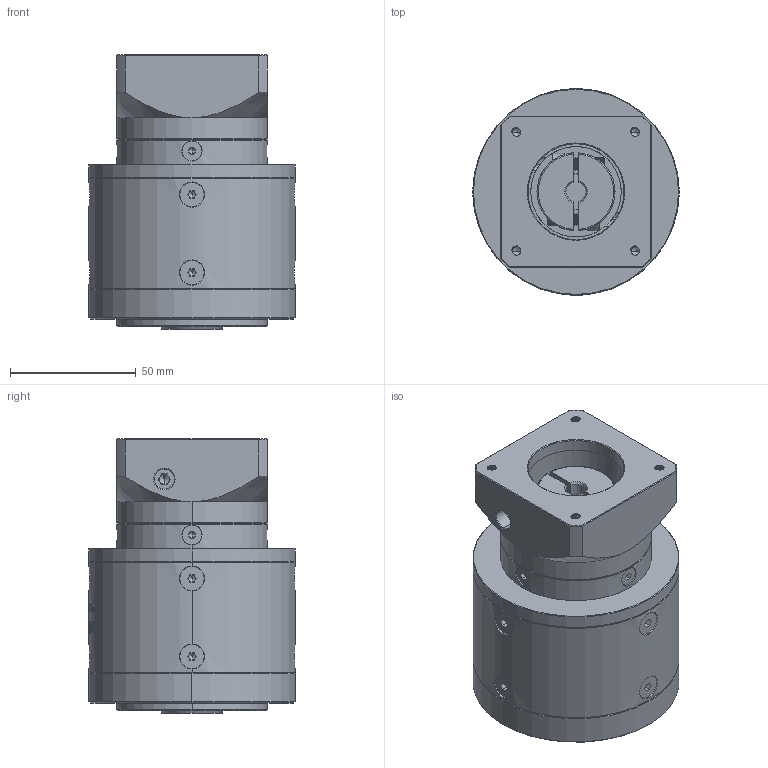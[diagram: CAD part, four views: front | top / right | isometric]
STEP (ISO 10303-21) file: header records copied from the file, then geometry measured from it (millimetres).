
FILE_DESCRIPTION (( 'STEP AP214' ), '1' );
FILE_NAME ('ZE80-K15-L2-8-38.1-47.14X47.14-M4.step', '2022-05-08T06:07:33', ( '' ), ( 'Microsoft' ), 'SwSTEP 2.0', 'SolidWorks 2016', '' );
FILE_SCHEMA (( 'AUTOMOTIVE_DESIGN' ));
Length unit declared in the file: millimetre
Products named in the file (1): ZE80-K15-L2-8-38.1-47.14X47.14-M4
Bounding box: 82 x 82 x 109 mm (x, y, z)
Volume: 431367.7 mm3; surface area: 62674.4 mm2
Topology: 18 solids, 18 shells, 2038 faces, 5364 edges, 3416 vertices
Faces by surface type: plane 936, cylinder 458, bspline 330, cone 300, torus 14
Entity records: 109856 total; most frequent: CARTESIAN_POINT 41033, ORIENTED_EDGE 10640, DIRECTION 8317, EDGE_CURVE 5320, VERTEX_POINT 3416, LINE 2857, VECTOR 2857, AXIS2_PLACEMENT_3D 2730
